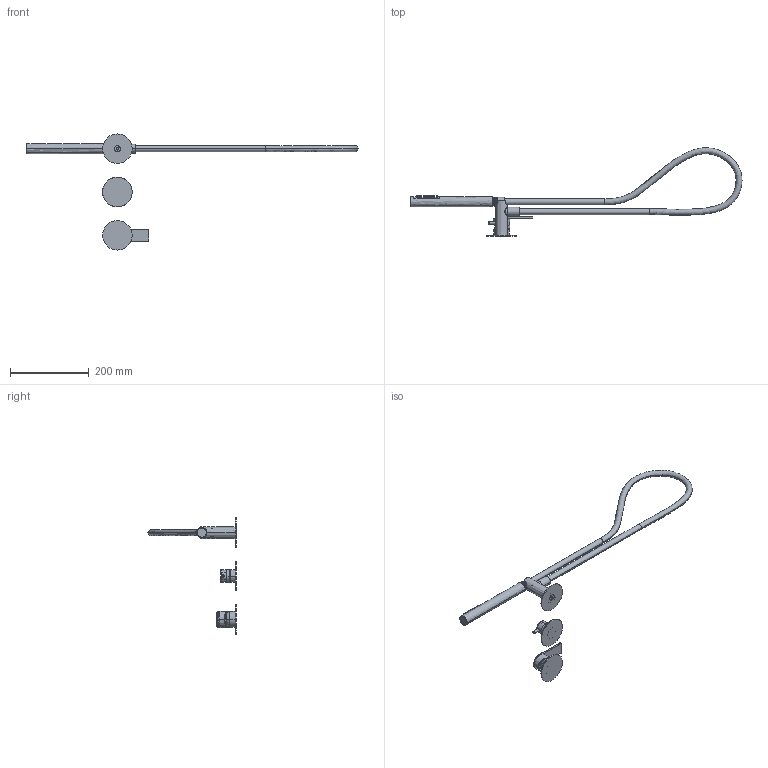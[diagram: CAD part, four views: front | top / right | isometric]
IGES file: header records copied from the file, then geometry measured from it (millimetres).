
Start section:  PTC IGES file: 47559V3.igs
Global section: file name: 47559V3.igs; native system: Creo Parametric by PTC Inc.; preprocessor: 2022014; author: carloff; organization: Unknown; date: 20241213.115940; units: millimetre
Bounding box: 842.91 x 223.99 x 295 mm (x, y, z)
Surface area: 182105.8 mm2 (no closed solid volume)
Topology: 0 solids, 0 shells, 790 faces, 3934 edges, 3908 vertices
Faces by surface type: revolution 501, bspline 289
